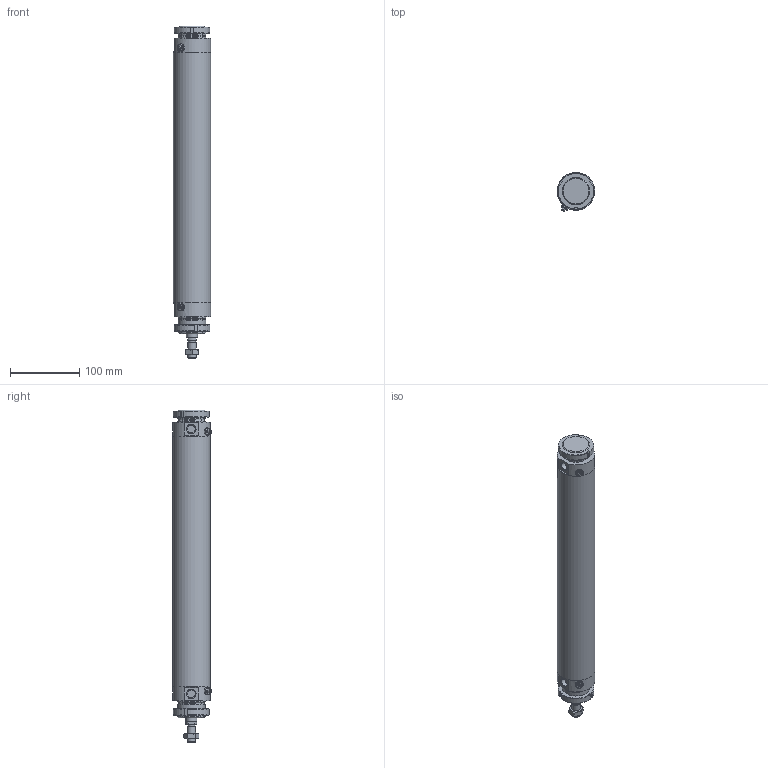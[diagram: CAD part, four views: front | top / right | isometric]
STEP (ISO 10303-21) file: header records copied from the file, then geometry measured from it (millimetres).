
FILE_DESCRIPTION(/* description */ (''),/* implementation_level */ '2;1');
FILE_NAME(/* name */ 'I:\Area Tecnica\Documenti\A-Manieri\_Inventor\12X\12X#C_###_####_#_#\12XBC_050_0320_#_#.stp',/* time_stamp */ '2015-04-28T15:44:06+02:00',/* author */ ('maniean1'),/* organization */ ('Pneumax S.p.A.'),/* preprocessor_version */ 'ST-DEVELOPER v15.2',/* originating_system */ 'Autodesk Inventor 2014',/* authorisation */ '');
FILE_SCHEMA (('AUTOMOTIVE_DESIGN { 1 0 10303 214 3 1 1 }'));
Length unit declared in the file: millimetre
Products named in the file (7): C1250_619-0320; 12X50_606; S12X50_0320; 12X_50_11; 12X50_621; G12X_050_05; 12XBC_050_0320_#_#
Bounding box: 54 x 55.88 x 480 mm (x, y, z)
Volume: 431024.7 mm3; surface area: 182660.9 mm2
Topology: 7 solids, 7 shells, 124 faces, 282 edges, 182 vertices
Faces by surface type: plane 64, cylinder 31, cone 27, torus 2
Full cylindrical faces by diameter (mm): 5 x2, 10.2 x1, 11 x2, 11.4 x2, 12 x2, 14 x1, 15.6 x1, 16 x1, 38.2 x2, 40 x6, 50 x2, 54 x3
Entity records: 2755 total; most frequent: CARTESIAN_POINT 553, DIRECTION 462, ORIENTED_EDGE 356, AXIS2_PLACEMENT_3D 197, EDGE_CURVE 178, EDGE_LOOP 160, VERTEX_POINT 136, ADVANCED_FACE 103
